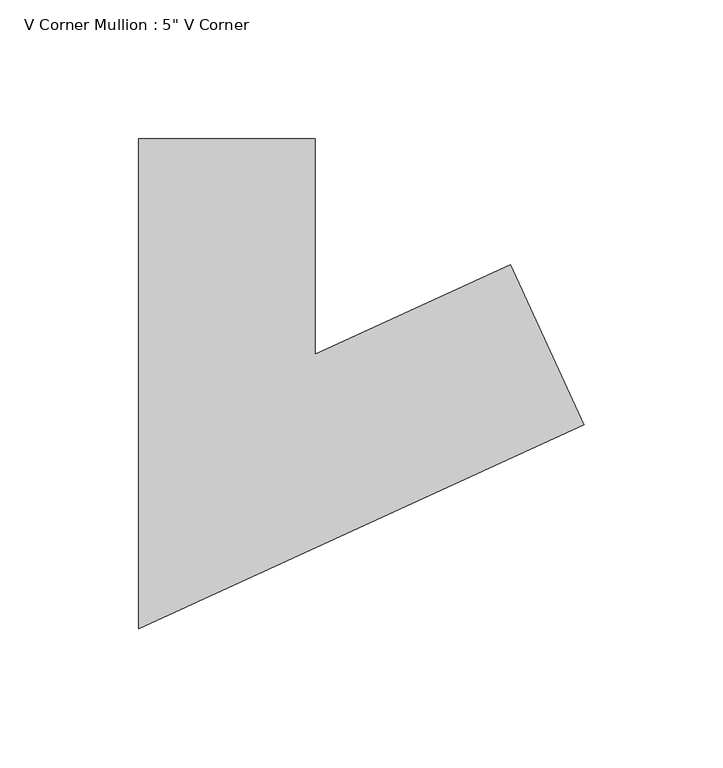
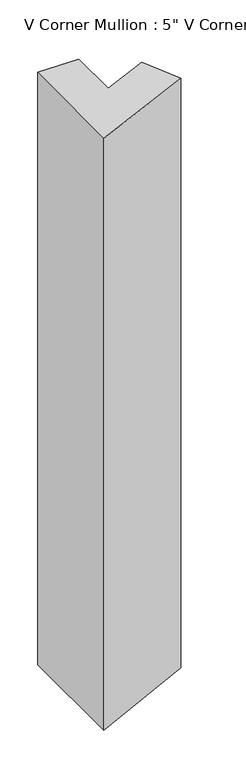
"""IFC4 building model written with IfcOpenShell, lengths in millimetres: member geometry."""

from ifc_helpers import new_model, si_unit, origin, place, context, project, spatial, faceted_brep, source, transform, mapped, element, save


def member_be89018c(model_context):
    return source(origin(), model_context, "Body", "Brep", [
        faceted_brep([(61.49523, 18.2208415, -1.4804652), (87.9205542, -39.5195451, -2.116641), (87.9205542, -39.5195451, -959.8685916), (61.49523, 18.2208415, -960.0026865), (-9.0228811, -14.0523047, 0.2172211), (-9.0228811, -14.0523047, -960.3605297), (-9.0228811, 63.5, 0.2172211), (-9.0228811, 63.5, -960.3605297), (-72.5228811, 63.5, 1.7459501), (-72.5228811, 63.5, -960.6827595), (-72.5228811, -112.9476953, 1.7459501), (-72.5228811, -112.9476953, -960.6827595)], [[[0, 1, 2, 3]], [[4, 0, 3, 5]], [[6, 4, 5, 7]], [[8, 6, 7, 9]], [[10, 8, 9, 11]], [[1, 10, 11, 2]], [[1, 0, 4, 6, 8, 10]], [[2, 11, 9, 7, 5, 3]]]),
    ])


if __name__ == "__main__":
    model = new_model("IFC4")
    model_context = context("Model", 3, world=origin())
    ifc_project = project(units=[si_unit("LENGTHUNIT", "METRE", prefix="MILLI")], contexts=[model_context])
    site = spatial("IfcSite", under=ifc_project)
    building = spatial("IfcBuilding", under=site)
    placement = place(None, origin())
    member_shape = member_be89018c(model_context)
    element("IfcMember", 1, ObjectType="V Corner Mullion : 5\" V Corner", at=placement, inside=building, context=model_context, shape_type="MappedRepresentation", body=[
        mapped(member_shape, transform((0.0, 0.0, 0.0), x_axis=(1.0, 0.0, 0.0), y_axis=(0.0, 1.0, 0.0), z_axis=(0.0, 0.0, 1.0))),
    ])
    save(model, "model.ifc")
